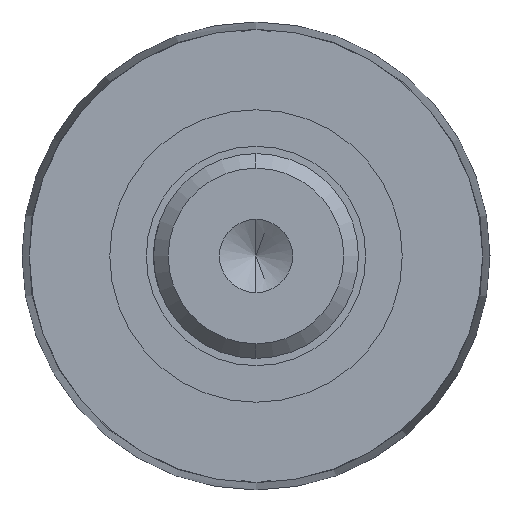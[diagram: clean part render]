
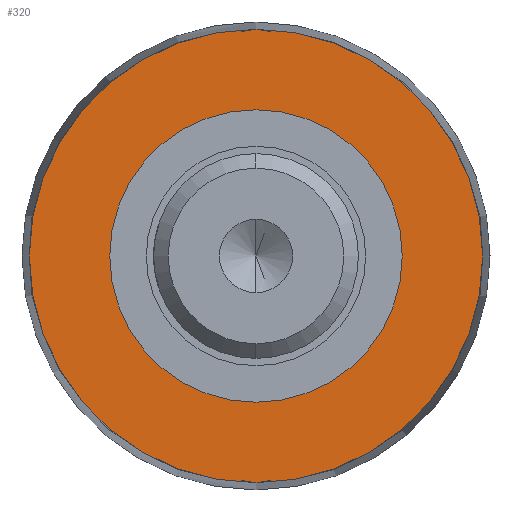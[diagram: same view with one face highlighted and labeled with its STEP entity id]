
A CAD part, left-side view. The second image highlights one B-rep face of the part: STEP entity #320.
In plain terms, the highlighted planar face has unit normal (-1, 0, 0).
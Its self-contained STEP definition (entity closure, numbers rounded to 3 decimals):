
#172 = PLANE ( 'NONE',  #677 ) ;
#179 = DIRECTION ( 'NONE',  ( 1., 0., 0. ) ) ;
#185 = CIRCLE ( 'NONE', #384, 15.5 ) ;
#203 = CARTESIAN_POINT ( 'NONE',  ( -260., 0., -10. ) ) ;
#250 = EDGE_CURVE ( 'NONE', #417, #484, #467, .T. ) ;
#268 = DIRECTION ( 'NONE',  ( -1., 0., 0. ) ) ;
#320 = ADVANCED_FACE ( 'NONE', ( #999, #1039 ), #172, .T. ) ;
#326 = CARTESIAN_POINT ( 'NONE',  ( -260., 0., 0. ) ) ;
#384 = AXIS2_PLACEMENT_3D ( 'NONE', #576, #949, #385 ) ;
#385 = DIRECTION ( 'NONE',  ( 0., 0., -1. ) ) ;
#394 = EDGE_LOOP ( 'NONE', ( #951, #633 ) ) ;
#396 = ORIENTED_EDGE ( 'NONE', *, *, #931, .F. ) ;
#397 = DIRECTION ( 'NONE',  ( 0., 0., -1. ) ) ;
#411 = CARTESIAN_POINT ( 'NONE',  ( -260., 0., -15.5 ) ) ;
#417 = VERTEX_POINT ( 'NONE', #580 ) ;
#422 = EDGE_CURVE ( 'NONE', #650, #554, #185, .T. ) ;
#467 = CIRCLE ( 'NONE', #784, 10. ) ;
#484 = VERTEX_POINT ( 'NONE', #203 ) ;
#508 = CARTESIAN_POINT ( 'NONE',  ( -260., 0., 15.5 ) ) ;
#554 = VERTEX_POINT ( 'NONE', #508 ) ;
#564 = DIRECTION ( 'NONE',  ( 0., 0., 1. ) ) ;
#576 = CARTESIAN_POINT ( 'NONE',  ( -260., 0., 0. ) ) ;
#580 = CARTESIAN_POINT ( 'NONE',  ( -260., 0., 10. ) ) ;
#589 = AXIS2_PLACEMENT_3D ( 'NONE', #1057, #1154, #397 ) ;
#607 = DIRECTION ( 'NONE',  ( 1., 0., 0. ) ) ;
#615 = ORIENTED_EDGE ( 'NONE', *, *, #422, .F. ) ;
#625 = EDGE_LOOP ( 'NONE', ( #615, #396 ) ) ;
#633 = ORIENTED_EDGE ( 'NONE', *, *, #250, .T. ) ;
#638 = CARTESIAN_POINT ( 'NONE',  ( -260., 0., 0. ) ) ;
#650 = VERTEX_POINT ( 'NONE', #411 ) ;
#677 = AXIS2_PLACEMENT_3D ( 'NONE', #829, #268, #564 ) ;
#784 = AXIS2_PLACEMENT_3D ( 'NONE', #638, #179, #1126 ) ;
#829 = CARTESIAN_POINT ( 'NONE',  ( -260., 10., 0. ) ) ;
#848 = AXIS2_PLACEMENT_3D ( 'NONE', #326, #607, #988 ) ;
#931 = EDGE_CURVE ( 'NONE', #554, #650, #1040, .T. ) ;
#949 = DIRECTION ( 'NONE',  ( 1., 0., 0. ) ) ;
#951 = ORIENTED_EDGE ( 'NONE', *, *, #1022, .T. ) ;
#988 = DIRECTION ( 'NONE',  ( 0., 0., -1. ) ) ;
#999 = FACE_BOUND ( 'NONE', #394, .T. ) ;
#1022 = EDGE_CURVE ( 'NONE', #484, #417, #1027, .T. ) ;
#1027 = CIRCLE ( 'NONE', #848, 10. ) ;
#1039 = FACE_OUTER_BOUND ( 'NONE', #625, .T. ) ;
#1040 = CIRCLE ( 'NONE', #589, 15.5 ) ;
#1057 = CARTESIAN_POINT ( 'NONE',  ( -260., 0., 0. ) ) ;
#1126 = DIRECTION ( 'NONE',  ( 0., 0., -1. ) ) ;
#1154 = DIRECTION ( 'NONE',  ( 1., 0., 0. ) ) ;
